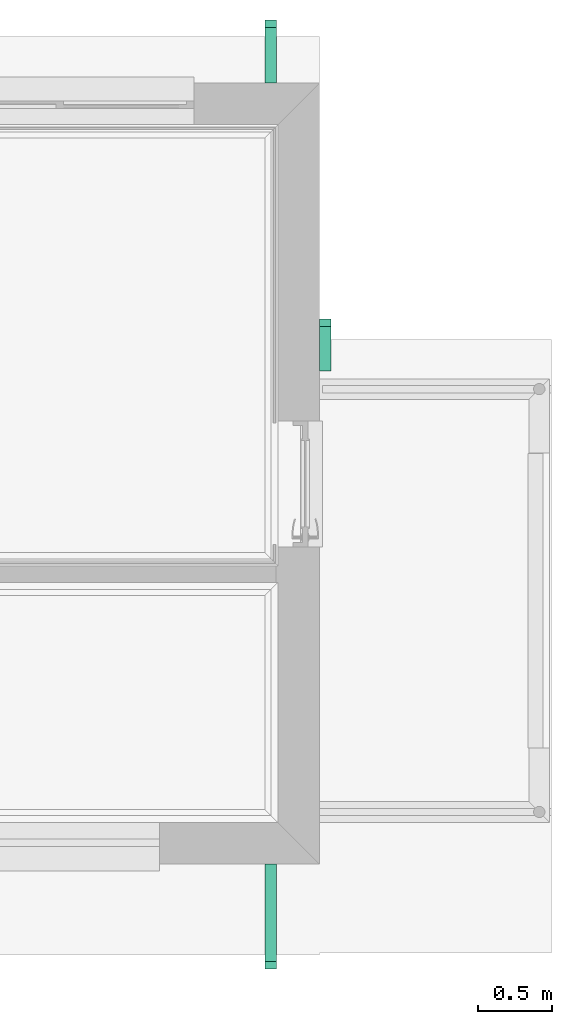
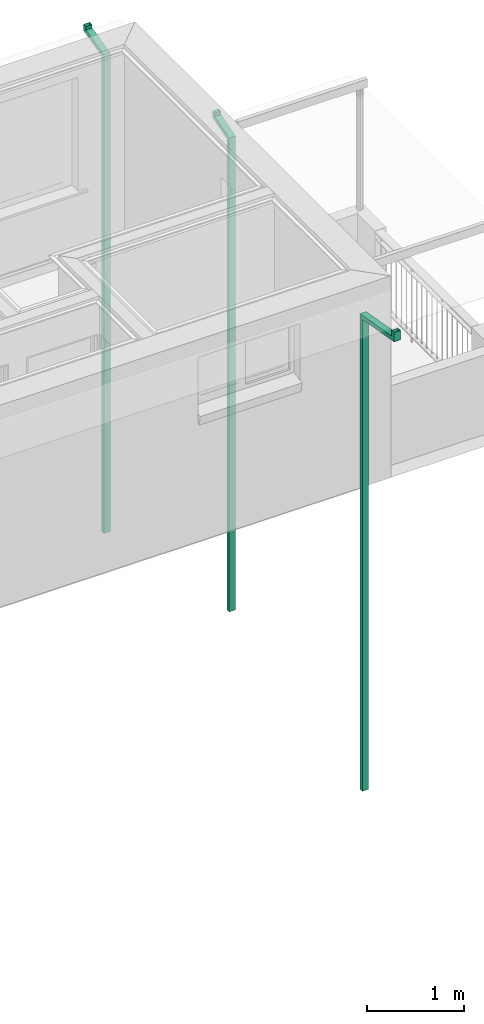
# One storey, part 16 of 18: 3 distribution elements.
"""IFC2X3 building model written with IfcOpenShell, lengths in millimetres."""

from ifc_helpers import new_model, entity, si_unit, converted_unit, money_unit, direction, frame, origin_with_axes, place, context, subcontext, project, spatial, open_shell, surface_model, source, transform, mapped, material, type_object, element, save


model = new_model("IFC2X3")

# Units and contexts
model_context = context("Model", 3, precision=1e-05, world=origin_with_axes(), true_north=direction((0.0, 1.0)))
body_context = subcontext(model_context, "Body", "Model", "MODEL_VIEW")
ifc_project = project(units=[si_unit("LENGTHUNIT", "METRE", prefix="MILLI"), si_unit("AREAUNIT", "SQUARE_METRE"), si_unit("VOLUMEUNIT", "CUBIC_METRE"), converted_unit("PLANEANGLEUNIT", "DEGREE", entity("IfcPlaneAngleMeasure", 0.0174532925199), si_unit("PLANEANGLEUNIT", "RADIAN"), dimensions=[0, 0, 0, 0, 0, 0, 0]), si_unit("SOLIDANGLEUNIT", "STERADIAN"), money_unit("AUD"), si_unit("TIMEUNIT", "SECOND"), si_unit("MASSUNIT", "GRAM"), si_unit("THERMODYNAMICTEMPERATUREUNIT", "DEGREE_CELSIUS"), si_unit("LUMINOUSINTENSITYUNIT", "LUMEN")], contexts=[model_context])

# Site, building, storey
site_placement = place(None, origin_with_axes())
site = spatial("IfcSite", under=ifc_project, at=site_placement, Name="Lot 1. East Hills", CompositionType="ELEMENT")
building_placement = place(site_placement, origin_with_axes())
building = spatial("IfcBuilding", under=site, at=building_placement, Name="Proposed Units 7 & 8", CompositionType="ELEMENT")
storey_placement = place(building_placement, frame((0.0, 0.0, 5859.0), z_axis=(0.0, 0.0, 1.0), x_axis=(1.0, 0.0, 0.0)))
storey = spatial("IfcBuildingStorey", under=building, at=storey_placement, Name="Level 1", CompositionType="ELEMENT", Elevation=5859.0)

# Distribution elements
ifc_material = material(Name="50 %")
distribution_element_type = type_object("IfcDistributionElementType", Name="Downspout Complex 12")
shared_shape_1 = source(origin_with_axes(), body_context, "Body", "SurfaceModel", [
    surface_model("IfcShellBasedSurfaceModel", [(37.5, 25.0, 250.0), (37.5, -25.0, 250.0), (37.5, -25.0, 150.0), (37.5, -25.0, 0.0), (37.5, 25.0, 0.0), (37.5, 25.0, 150.0), (-37.5, -25.0, 250.0), (-37.5, -25.0, 150.0), (-37.5, -25.0, 0.0), (-37.5, 25.0, 250.0), (-37.5, 25.0, 0.0), (-37.5, 25.0, 150.0)], [open_shell([[[0, 1, 2, 3, 4, 5]], [[1, 6, 7, 8, 3, 2]], [[9, 0, 5, 4, 10, 11]], [[6, 9, 11, 10, 8, 7]]])]),
    surface_model("IfcShellBasedSurfaceModel", [(-37.5, -25.0, 5340.60944361), (-37.5, 25.0, 5340.60944361), (-37.5, 25.0, 250.0), (-37.5, -25.0, 250.0), (37.5, 25.0, 5340.60944361), (37.5, 25.0, 250.0), (37.5, -25.0, 5340.60944361), (37.5, -25.0, 250.0)], [open_shell([[[0, 1, 2, 3]], [[1, 4, 5, 2]], [[6, 0, 3, 7]], [[4, 6, 7, 5]]])]),
    surface_model("IfcShellBasedSurfaceModel", [(37.5, -350.000480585, 6140.60944361), (37.5, -400.000480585, 6140.60944361), (37.5, -400.000480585, 6062.34286548), (37.5, -25.0, 5971.10385434), (37.5, -25.0, 5340.60944361), (37.5, 25.0, 5340.60944361), (37.5, 25.0, 6010.39730958), (37.5, -350.000480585, 6101.63632073), (-37.5, -400.000480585, 6140.60944361), (-37.5, -400.000480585, 6062.34286548), (-37.5, -25.0, 5971.10385434), (-37.5, -25.0, 5340.60944361), (-37.5, 25.0, 6010.39730958), (-37.5, 25.0, 5340.60944361), (-37.5, -350.000480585, 6101.63632073), (-37.5, -350.000480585, 6140.60944361)], [open_shell([[[0, 1, 2, 3, 4, 5, 6, 7]], [[1, 8, 9, 2]], [[2, 9, 10, 3]], [[3, 10, 11, 4]], [[12, 6, 5, 13]], [[14, 7, 6, 12]], [[15, 0, 7, 14]], [[8, 15, 14, 12, 13, 11, 10, 9]]])]),
])
distribution_element_1_placement = place(storey_placement, frame((15500.0000007, 5288.0, -3765.60088564), z_axis=(0.0, 0.0, 1.0), x_axis=(-1.0, 0.0, 0.0)))
element("IfcDistributionElement", 1, at=distribution_element_1_placement, inside=storey, type_object=distribution_element_type, material=ifc_material, Name="CEL-MOD-G21 - Downspout Complex 12 - object -", context=body_context, shape_type="MappedRepresentation", body=[
    mapped(shared_shape_1, transform((0.0, 0.0, 0.0))),
])
shared_shape_2 = source(origin_with_axes(), body_context, "Body", "SurfaceModel", [
    surface_model("IfcShellBasedSurfaceModel", [(37.5, 25.0, 390.448061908), (37.5, -25.0, 390.448061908), (37.5, -25.0, 150.0), (37.5, -25.0, 0.0), (37.5, 25.0, 0.0), (37.5, 25.0, 150.0), (-37.5, -25.0, 390.448061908), (-37.5, -25.0, 150.0), (-37.5, -25.0, 0.0), (-37.5, 25.0, 390.448061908), (-37.5, 25.0, 0.0), (-37.5, 25.0, 150.0)], [open_shell([[[0, 1, 2, 3, 4, 5]], [[1, 6, 7, 8, 3, 2]], [[9, 0, 5, 4, 10, 11]], [[6, 9, 11, 10, 8, 7]]])]),
    surface_model("IfcShellBasedSurfaceModel", [(-37.5, -25.0, 5361.97224951), (-37.5, 25.0, 5361.97224951), (-37.5, 25.0, 390.448061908), (-37.5, -25.0, 390.448061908), (37.5, 25.0, 5361.97224951), (37.5, 25.0, 390.448061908), (37.5, -25.0, 5361.97224951), (37.5, -25.0, 390.448061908)], [open_shell([[[0, 1, 2, 3]], [[1, 4, 5, 2]], [[6, 0, 3, 7]], [[4, 6, 7, 5]]])]),
    surface_model("IfcShellBasedSurfaceModel", [(37.5, -630.95230729, 6161.97224951), (37.5, -680.95230729, 6161.97224951), (37.5, -680.95230729, 6044.21572098), (37.5, -25.0, 5929.65566607), (37.5, -25.0, 5361.97224951), (37.5, 25.0, 5361.97224951), (37.5, 25.0, 5971.6801308), (37.5, -630.95230729, 6086.24018572), (-37.5, -680.95230729, 6161.97224951), (-37.5, -680.95230729, 6044.21572098), (-37.5, -25.0, 5929.65566607), (-37.5, -25.0, 5361.97224951), (-37.5, 25.0, 5971.6801308), (-37.5, 25.0, 5361.97224951), (-37.5, -630.95230729, 6086.24018572), (-37.5, -630.95230729, 6161.97224951)], [open_shell([[[0, 1, 2, 3, 4, 5, 6, 7]], [[1, 8, 9, 2]], [[2, 9, 10, 3]], [[3, 10, 11, 4]], [[12, 6, 5, 13]], [[14, 7, 6, 12]], [[15, 0, 7, 14]], [[8, 15, 14, 12, 13, 11, 10, 9]]])]),
])
distribution_element_2_placement = place(storey_placement, frame((15500.0000007, -27.0175623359, -3780.97224951), z_axis=(0.0, 0.0, 1.0), x_axis=(1.0, 0.0, 0.0)))
element("IfcDistributionElement", 2, at=distribution_element_2_placement, inside=storey, type_object=distribution_element_type, material=ifc_material, Name="CEL-MOD-G21 - Downspout Complex 12 - object -", context=body_context, shape_type="MappedRepresentation", body=[
    mapped(shared_shape_2, transform((0.0, 0.0, 0.0))),
])
shared_shape_3 = source(origin_with_axes(), body_context, "Body", "SurfaceModel", [
    surface_model("IfcShellBasedSurfaceModel", [(37.5, 25.0, 250.0), (37.5, -25.0, 250.0), (37.5, -25.0, 150.0), (37.5, -25.0, 0.0), (37.5, 25.0, 0.0), (37.5, 25.0, 150.0), (-37.5, -25.0, 250.0), (-37.5, -25.0, 150.0), (-37.5, -25.0, 0.0), (-37.5, 25.0, 250.0), (-37.5, 25.0, 0.0), (-37.5, 25.0, 150.0)], [open_shell([[[0, 1, 2, 3, 4, 5]], [[1, 6, 7, 8, 3, 2]], [[9, 0, 5, 4, 10, 11]], [[6, 9, 11, 10, 8, 7]]])]),
    surface_model("IfcShellBasedSurfaceModel", [(-37.5, -25.0, 5283.65687987), (-37.5, 25.0, 5283.65687987), (-37.5, 25.0, 250.0), (-37.5, -25.0, 250.0), (37.5, 25.0, 5283.65687987), (37.5, 25.0, 250.0), (37.5, -25.0, 5283.65687987), (37.5, -25.0, 250.0)], [open_shell([[[0, 1, 2, 3]], [[1, 4, 5, 2]], [[6, 0, 3, 7]], [[4, 6, 7, 5]]])]),
    surface_model("IfcShellBasedSurfaceModel", [(37.5, -273.242801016, 6083.65687987), (37.5, -323.242801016, 6083.65687987), (37.5, -323.242801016, 6006.54138528), (37.5, -25.0, 5915.30237413), (37.5, -25.0, 5283.65687987), (37.5, 25.0, 5283.65687987), (37.5, 25.0, 5952.29366229), (37.5, -273.242801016, 6043.53267344), (-37.5, -323.242801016, 6083.65687987), (-37.5, -323.242801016, 6006.54138528), (-37.5, -25.0, 5915.30237413), (-37.5, -25.0, 5283.65687987), (-37.5, 25.0, 5952.29366229), (-37.5, 25.0, 5283.65687987), (-37.5, -273.242801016, 6043.53267344), (-37.5, -273.242801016, 6083.65687987)], [open_shell([[[0, 1, 2, 3, 4, 5, 6, 7]], [[1, 8, 9, 2]], [[2, 9, 10, 3]], [[3, 10, 11, 4]], [[12, 6, 5, 13]], [[14, 7, 6, 12]], [[15, 0, 7, 14]], [[8, 15, 14, 12, 13, 11, 10, 9]]])]),
])
distribution_element_3_placement = place(storey_placement, frame((15867.5, 3347.85741497, -3702.21548608), z_axis=(0.0, 0.0, 1.0), x_axis=(-1.0, 0.0, 0.0)))
element("IfcDistributionElement", 3, at=distribution_element_3_placement, inside=storey, type_object=distribution_element_type, material=ifc_material, Name="CEL-MOD-G21 - Downspout Complex 12 - object -", context=body_context, shape_type="MappedRepresentation", body=[
    mapped(shared_shape_3, transform((0.0, 0.0, 0.0))),
])

save(model, "model.ifc")
